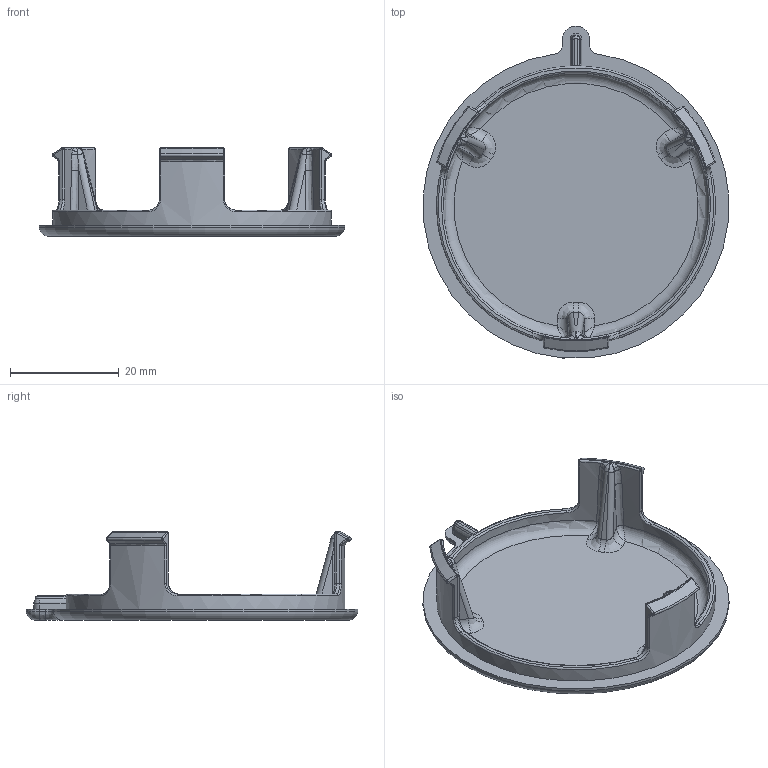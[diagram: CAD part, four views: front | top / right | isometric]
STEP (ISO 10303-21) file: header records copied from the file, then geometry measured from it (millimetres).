
FILE_DESCRIPTION((''),'2;1');
FILE_NAME('FRISBEE_INSERT','2026-04-08T19:29:57',('m.kloibhofer'),(''),'CREO PARAMETRIC BY PTC INC, 2025093','CREO PARAMETRIC BY PTC INC, 2025093','');
FILE_SCHEMA(('AUTOMOTIVE_DESIGN { 1 0 10303 214 1 1 1 1 }'));
Length unit declared in the file: millimetre
Products named in the file (1): FRISBEE_INSERT
Bounding box: 56.19 x 61.05 x 16.22 mm (x, y, z)
Volume: 4273.9 mm3; surface area: 7253.8 mm2
Topology: 1 solids, 1 shells, 233 faces, 514 edges, 284 vertices
Faces by surface type: bspline 86, cylinder 61, plane 31, torus 24, sphere 18, cone 7, revolution 4, extrusion 2
Entity records: 9669 total; most frequent: CARTESIAN_POINT 5045, ORIENTED_EDGE 1028, DIRECTION 850, EDGE_CURVE 514, AXIS2_PLACEMENT_3D 363, VERTEX_POINT 284, EDGE_LOOP 234, FACE_OUTER_BOUND 233
